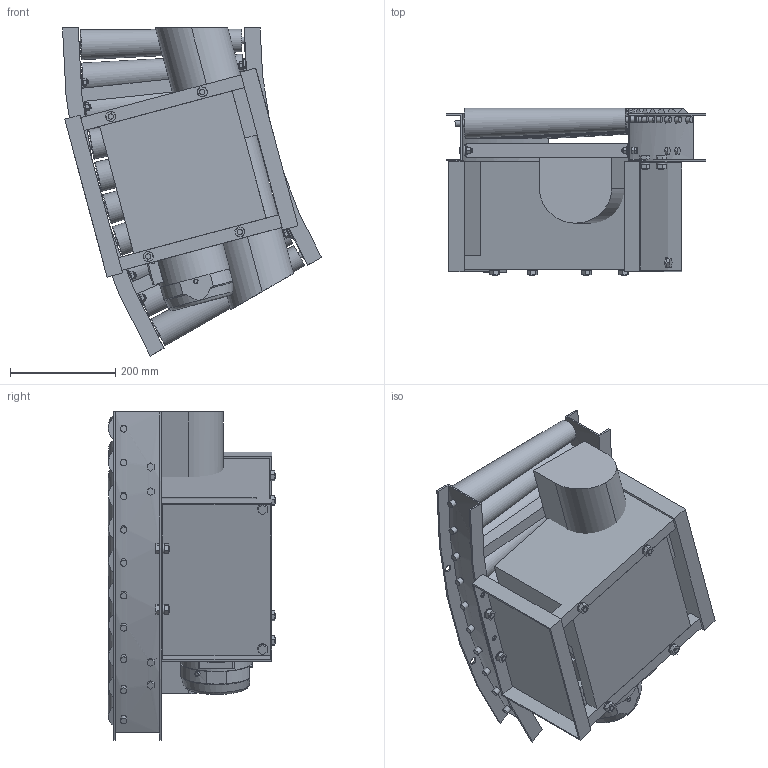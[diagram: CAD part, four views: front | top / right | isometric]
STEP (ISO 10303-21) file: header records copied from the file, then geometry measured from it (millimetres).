
FILE_DESCRIPTION( (''), '2;1');
FILE_NAME ('WEB-MCD-42-315-50-30°-C9.stp','2026-03-19T10:08:01',(''),(''),'spGate 20.6.2 (****-****-****-****)','','');
FILE_SCHEMA (('AUTOMOTIVE_DESIGN'));
Length unit declared in the file: millimetre
Products named in the file (25): WEB-MCD-42-315-50-30_-C9; TEMP_X_T-prt0; TEMP_X_T-prt1; TEMP_X_T-prt2; TEMP_X_T-prt3; TEMP_X_T-prt4; TEMP_X_T-prt5; TEMP_X_T-prt6; TEMP_X_T-prt7; TEMP_X_T-prt8; TEMP_X_T-prt9; TEMP_X_T-prt10; TEMP_X_T-prt11; TEMP_X_T-prt12; TEMP_X_T-prt13; TEMP_X_T-prt14; TEMP_X_T-prt15; TEMP_X_T-prt16; TEMP_X_T-prt17; TEMP_X_T-prt18; TEMP_X_T-prt19; TEMP_X_T-prt20; TEMP_X_T-prt21; TEMP_X_T-prt22; TEMP_X_T-prt23
Assembly tree (24 placements, depth 2):
  WEB-MCD-42-315-50-30_-C9
    TEMP_X_T-prt0
    TEMP_X_T-prt1
    TEMP_X_T-prt2
    TEMP_X_T-prt3
    TEMP_X_T-prt4
    TEMP_X_T-prt5
    TEMP_X_T-prt6
    TEMP_X_T-prt7
    TEMP_X_T-prt8
    TEMP_X_T-prt9
    TEMP_X_T-prt10
    TEMP_X_T-prt11
    TEMP_X_T-prt12
    TEMP_X_T-prt13
    TEMP_X_T-prt14
    TEMP_X_T-prt15
    TEMP_X_T-prt16
    TEMP_X_T-prt17
    TEMP_X_T-prt18
    TEMP_X_T-prt19
    TEMP_X_T-prt20
    TEMP_X_T-prt21
    TEMP_X_T-prt22
    TEMP_X_T-prt23
Bounding box: 491.56 x 317 x 622.5 mm (x, y, z)
Volume: 27506130.4 mm3; surface area: 2055708.8 mm2
Topology: 24 solids, 30 shells, 915 faces, 2238 edges, 1472 vertices
Faces by surface type: plane 705, cylinder 172, bspline 38
Full cylindrical faces by diameter (mm): 8 x16, 8.5 x16, 10 x12, 10.5 x8, 11 x4, 12 x21, 12.4 x10, 14 x4, 18.4 x12, 125 x1, 136 x1
Entity records: 50511 total; most frequent: CARTESIAN_POINT 10101, ORIENTED_EDGE 4476, DIRECTION 4369, COLOUR_RGB 3177, PRESENTATION_STYLE_ASSIGNMENT 3177, STYLED_ITEM 3177, EDGE_CURVE 2238, DRAUGHTING_PRE_DEFINED_CURVE_FONT 2238
